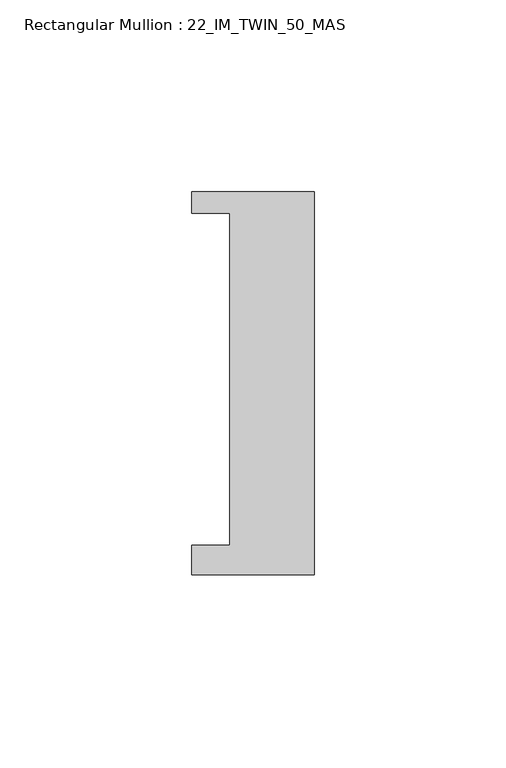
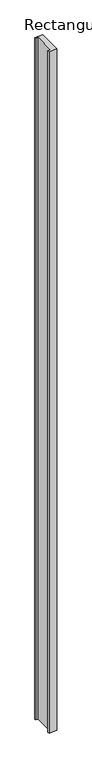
"""IFC4 building model written with IfcOpenShell, lengths in millimetres: member geometry, Rectangular Mullion : 22_IM_TWIN_50_MAS."""

from ifc_helpers import new_model, si_unit, frame, origin, place, context, project, spatial, polyline, outline, extrude, source, transform, mapped, element, save


def rectangular_mullion_22_im_twin_50_mas_22e90203(model_context):
    return source(origin(), model_context, "Body", "SweptSolid", [
        extrude(outline(polyline([(-32.0, 50.0), (0.0, 50.0), (0.0, -50.0), (-32.0, -50.0), (-32.0, -42.3), (-22.0, -42.3), (-22.0, 44.3), (-32.0, 44.3), (-32.0, 50.0)])), frame((0.0, 0.0, -2936.0), z_axis=(0.0, 0.0, 1.0), x_axis=(1.0, 0.0, 0.0)), (0.0, 0.0, 1.0), 2936.0),
    ])


if __name__ == "__main__":
    model = new_model("IFC4")
    model_context = context("Model", 3, world=origin())
    ifc_project = project(units=[si_unit("LENGTHUNIT", "METRE", prefix="MILLI")], contexts=[model_context])
    site = spatial("IfcSite", under=ifc_project)
    building = spatial("IfcBuilding", under=site)
    placement = place(None, origin())
    rectangular_mullion_22_im_twin_50_mas_shape = rectangular_mullion_22_im_twin_50_mas_22e90203(model_context)
    element("IfcMember", 1, ObjectType="Rectangular Mullion : 22_IM_TWIN_50_MAS", at=placement, inside=building, context=model_context, shape_type="MappedRepresentation", body=[
        mapped(rectangular_mullion_22_im_twin_50_mas_shape, transform((0.0, 0.0, 0.0), x_axis=(1.0, 0.0, 0.0), y_axis=(0.0, 1.0, 0.0), z_axis=(0.0, 0.0, 1.0))),
    ])
    save(model, "model.ifc")
